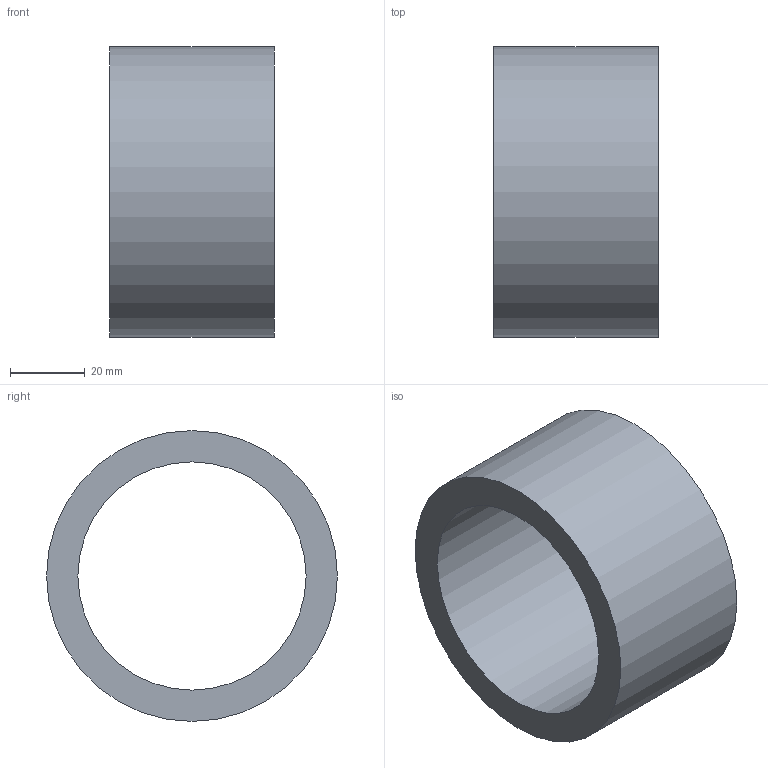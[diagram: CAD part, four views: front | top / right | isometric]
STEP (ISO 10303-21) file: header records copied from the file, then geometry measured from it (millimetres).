
FILE_DESCRIPTION(('Open CASCADE Model'),'2;1');
FILE_NAME('Open CASCADE Shape Model','2026-10-08T06:53:14',('Author'),( 'Open CASCADE'),'Open CASCADE STEP processor 7.8','Open CASCADE 7.8' ,'Unknown');
FILE_SCHEMA(('AUTOMOTIVE_DESIGN { 1 0 10303 214 1 1 1 1 }'));
Length unit declared in the file: millimetre
Products named in the file (1): Open CASCADE STEP translator 7.8 16
Bounding box: 44 x 78 x 78 mm (x, y, z)
Volume: 80814.8 mm3; surface area: 22915 mm2
Topology: 1 solids, 1 shells, 4 faces, 6 edges, 4 vertices
Faces by surface type: cylinder 2, plane 2
Full cylindrical faces by diameter (mm): 61.2 x1, 78 x1
Entity records: 186 total; most frequent: DIRECTION 32, CARTESIAN_POINT 27, ORIENTED_EDGE 12, PCURVE 12, DEFINITIONAL_REPRESENTATION 12, LINE 10, VECTOR 10, AXIS2_PLACEMENT_3D 9
